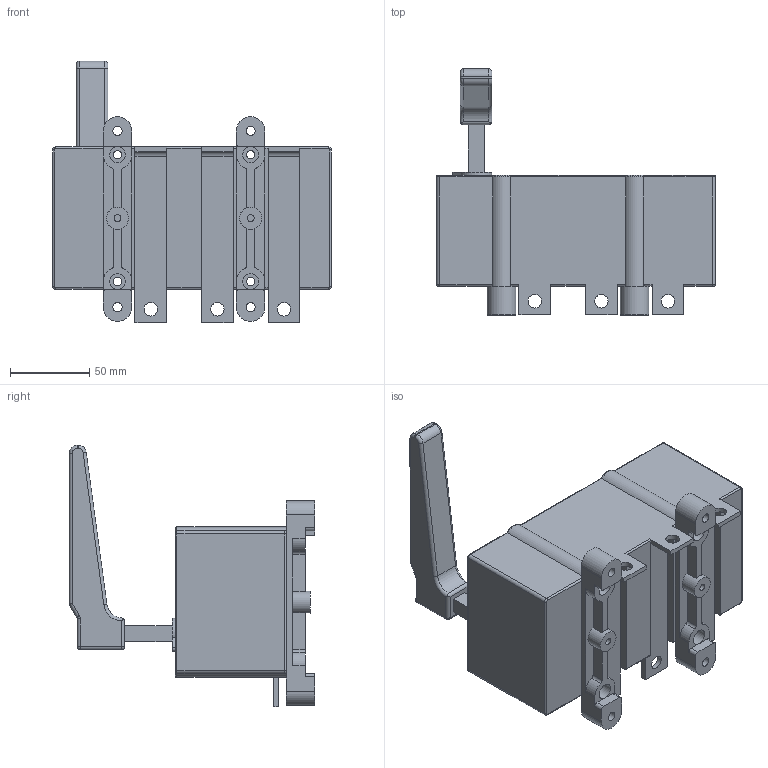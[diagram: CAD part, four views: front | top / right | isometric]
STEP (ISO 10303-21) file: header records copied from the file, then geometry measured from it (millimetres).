
FILE_DESCRIPTION(/* description */ (''),/* implementation_level */ '2;1');
FILE_NAME(/* name */ 'RA160 P3 A-R.stp',/* time_stamp */ '2021-08-17T13:50:09+02:00',/* author */ (''),/* organization */ (''),/* preprocessor_version */ 'ST-DEVELOPER v18.1',/* originating_system */ 'SIEMENS PLM Software NX 1965',/* authorisation */ '');
FILE_SCHEMA (('AUTOMOTIVE_DESIGN { 1 0 10303 214 3 1 1 1 }'));
Length unit declared in the file: millimetre
Products named in the file (1): RA160 P3 A-R_stp
Bounding box: 176 x 155 x 165 mm (x, y, z)
Volume: 1182922.8 mm3; surface area: 107407.8 mm2
Topology: 1 solids, 1 shells, 247 faces, 636 edges, 394 vertices
Faces by surface type: cylinder 113, plane 108, torus 15, sphere 6, bspline 5
Full cylindrical faces by diameter (mm): 4.3 x2, 5.3 x4, 5.8 x4, 8.5 x6, 10 x8, 14 x2
Entity records: 7445 total; most frequent: CARTESIAN_POINT 1427, DIRECTION 1294, ORIENTED_EDGE 1192, EDGE_CURVE 596, AXIS2_PLACEMENT_3D 477, VERTEX_POINT 386, LINE 340, VECTOR 340
